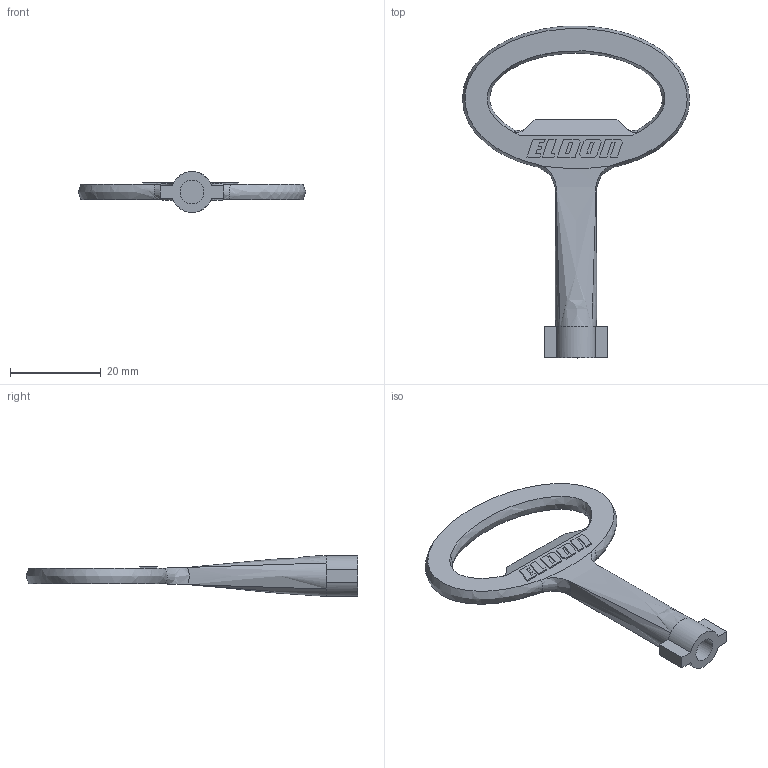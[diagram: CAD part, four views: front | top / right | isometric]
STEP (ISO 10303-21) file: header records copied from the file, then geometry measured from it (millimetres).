
FILE_DESCRIPTION(('STEP AP203'),'1');
FILE_NAME('E:/Elif/Desktop/20201072.step','2013-11-29T10:14:50',(' '),(' '),'Spatial InterOp 3D',' ',' ');
FILE_SCHEMA(('CONFIG_CONTROL_DESIGN'));
Length unit declared in the file: millimetre
Products named in the file (1): 1
Bounding box: 50 x 73 x 8.99 mm (x, y, z)
Volume: 4542.3 mm3; surface area: 3540 mm2
Topology: 1 solids, 1 shells, 86 faces, 226 edges, 150 vertices
Faces by surface type: plane 73, bspline 10, cylinder 3
Full cylindrical faces by diameter (mm): 5.2 x1
Entity records: 4954 total; most frequent: CARTESIAN_POINT 2897, ORIENTED_EDGE 450, DIRECTION 339, EDGE_CURVE 225, LINE 177, VECTOR 177, VERTEX_POINT 150, EDGE_LOOP 97
